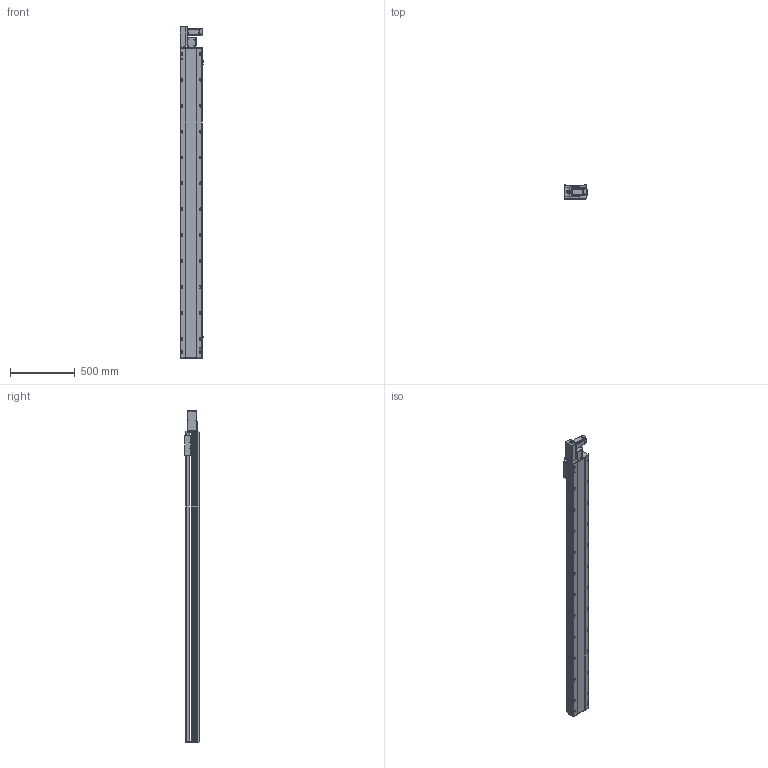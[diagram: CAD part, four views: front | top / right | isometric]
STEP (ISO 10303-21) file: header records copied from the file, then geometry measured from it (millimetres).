
FILE_DESCRIPTION (( 'STEP AP214' ), '1' );
FILE_NAME ('TPT17M-L40-2100-L-T40-C4.STEP', '2023-03-24T03:39:40', ( '' ), ( '' ), 'SwSTEP 2.0', 'SolidWorks 2020', '' );
FILE_SCHEMA (( 'AUTOMOTIVE_DESIGN' ));
Length unit declared in the file: millimetre
Products named in the file (11): 葩璃 TPT17-L-005 賑釱MZ-170-07^TPT17M-L40-L-T40-C4; hex nuts, style 1-grades ab gb_GB_FASTENER_NUT_SNAB1 M3-N; 葩璃 侂狟400W^TPT17M-L40-L-T40-C4; 葩璃 pm-t65-672^TPT17M-L40-L-T40-C4; 葩璃 (2) TPT14-L-009 萇儂啣^TPT17M-L40-L-T40-C4_400W; hexagon head bolts-full thread gb_GB_FASTENER_BOLT_STBAB A M5X16-N; 葩璃 TPT17-L-001 菁釱MZ-170-01^TPT17M-L40-L-T40-C4; 葩璃 TPT17-L-002 奻裔MZ-170-05^TPT17M-L40-L-T40-C4; 葩璃 TPT17-L-007 々湍釱MZ-169x88^TPT17M-L40-L-T40-C4_TPT17M; TPT17M-L40-2100-L-T40-C4; hexagon socket head cap screws gb_GB_FASTENER_SCREWS_HSHCS M3X6-N
Assembly tree (22 placements, depth 2):
  TPT17M-L40-2100-L-T40-C4
    葩璃 TPT17-L-001 菁釱MZ-170-01^TPT17M-L40-L-T40-C4
    葩璃 TPT17-L-002 奻裔MZ-170-05^TPT17M-L40-L-T40-C4
    葩璃 TPT17-L-005 賑釱MZ-170-07^TPT17M-L40-L-T40-C4
    葩璃 TPT17-L-007 々湍釱MZ-169x88^TPT17M-L40-L-T40-C4_TPT17M
    葩璃 (2) TPT14-L-009 萇儂啣^TPT17M-L40-L-T40-C4_400W
    葩璃 pm-t65-672^TPT17M-L40-L-T40-C4  x3
    葩璃 侂狟400W^TPT17M-L40-L-T40-C4
    hexagon socket head cap screws gb_GB_FASTENER_SCREWS_HSHCS M3X6-N  x6
    hex nuts, style 1-grades ab gb_GB_FASTENER_NUT_SNAB1 M3-N  x6
    hexagon head bolts-full thread gb_GB_FASTENER_BOLT_STBAB A M5X16-N
Bounding box: 183.7 x 108 x 2556.65 mm (x, y, z)
Volume: 25247285.2 mm3; surface area: 2460276.3 mm2
Topology: 30 solids, 30 shells, 1829 faces, 4682 edges, 2954 vertices
Faces by surface type: plane 933, cylinder 620, cone 238, bspline 26, torus 12
Entity records: 44921 total; most frequent: CARTESIAN_POINT 8468, DIRECTION 7405, ORIENTED_EDGE 6912, EDGE_CURVE 3456, AXIS2_PLACEMENT_3D 2654, VERTEX_POINT 2245, VECTOR 2097, LINE 2097
